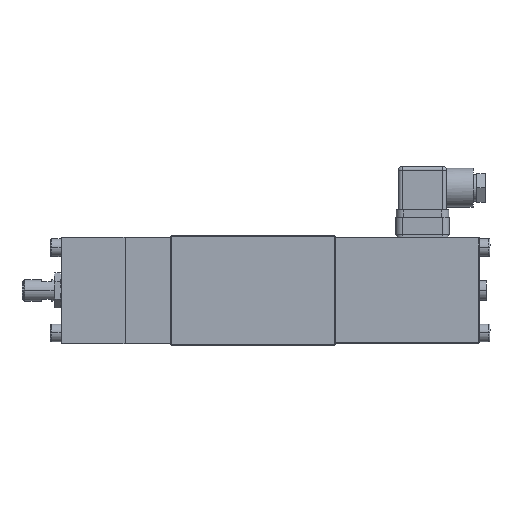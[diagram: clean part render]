
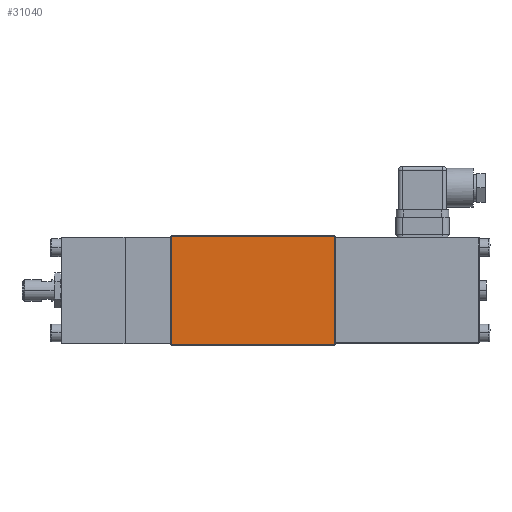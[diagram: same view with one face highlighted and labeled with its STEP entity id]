
A CAD part, top view. The second image highlights one B-rep face of the part: STEP entity #31040.
In plain terms, the highlighted planar face has unit normal (0, 0, 1).
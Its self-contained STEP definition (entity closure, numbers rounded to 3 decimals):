
#246 = PLANE ( 'NONE',  #33076 ) ;
#2569 = CARTESIAN_POINT ( 'NONE',  ( 92.5, -31., 31. ) ) ;
#2650 = EDGE_CURVE ( 'NONE', #14507, #12598, #25081, .T. ) ;
#2985 = VERTEX_POINT ( 'NONE', #25043 ) ;
#5133 = VECTOR ( 'NONE', #36692, 1000. ) ;
#5242 = CARTESIAN_POINT ( 'NONE',  ( 0.5, -31., 31. ) ) ;
#8399 = DIRECTION ( 'NONE',  ( 1., 0., 0. ) ) ;
#8882 = EDGE_CURVE ( 'NONE', #20867, #14507, #14378, .T. ) ;
#10046 = LINE ( 'NONE', #39367, #24751 ) ;
#11864 = ORIENTED_EDGE ( 'NONE', *, *, #15176, .T. ) ;
#12598 = VERTEX_POINT ( 'NONE', #40314 ) ;
#12725 = CARTESIAN_POINT ( 'NONE',  ( 93., -31., 31. ) ) ;
#13018 = EDGE_CURVE ( 'NONE', #2985, #20867, #10046, .T. ) ;
#14378 = LINE ( 'NONE', #2569, #5133 ) ;
#14507 = VERTEX_POINT ( 'NONE', #16736 ) ;
#15176 = EDGE_CURVE ( 'NONE', #12598, #2985, #22441, .T. ) ;
#15887 = DIRECTION ( 'NONE',  ( -1., 0., 0. ) ) ;
#16736 = CARTESIAN_POINT ( 'NONE',  ( 92.5, 30.5, 31. ) ) ;
#16779 = VECTOR ( 'NONE', #39489, 1000. ) ;
#19262 = FACE_OUTER_BOUND ( 'NONE', #33884, .T. ) ;
#20867 = VERTEX_POINT ( 'NONE', #30470 ) ;
#21874 = CARTESIAN_POINT ( 'NONE',  ( 93., 30.5, 31. ) ) ;
#22441 = LINE ( 'NONE', #5242, #37947 ) ;
#24751 = VECTOR ( 'NONE', #8399, 1000. ) ;
#25043 = CARTESIAN_POINT ( 'NONE',  ( 0.5, -30.5, 31. ) ) ;
#25081 = LINE ( 'NONE', #21874, #16779 ) ;
#27038 = DIRECTION ( 'NONE',  ( 0., -1., 0. ) ) ;
#28970 = ORIENTED_EDGE ( 'NONE', *, *, #13018, .T. ) ;
#30470 = CARTESIAN_POINT ( 'NONE',  ( 92.5, -30.5, 31. ) ) ;
#31040 = ADVANCED_FACE ( 'NONE', ( #19262 ), #246, .F. ) ;
#33076 = AXIS2_PLACEMENT_3D ( 'NONE', #12725, #34513, #15887 ) ;
#33884 = EDGE_LOOP ( 'NONE', ( #11864, #28970, #38164, #39061 ) ) ;
#34513 = DIRECTION ( 'NONE',  ( 0., 0., -1. ) ) ;
#36692 = DIRECTION ( 'NONE',  ( 0., 1., 0. ) ) ;
#37947 = VECTOR ( 'NONE', #27038, 1000. ) ;
#38164 = ORIENTED_EDGE ( 'NONE', *, *, #8882, .T. ) ;
#39061 = ORIENTED_EDGE ( 'NONE', *, *, #2650, .T. ) ;
#39367 = CARTESIAN_POINT ( 'NONE',  ( 93., -30.5, 31. ) ) ;
#39489 = DIRECTION ( 'NONE',  ( -1., 0., 0. ) ) ;
#40314 = CARTESIAN_POINT ( 'NONE',  ( 0.5, 30.5, 31. ) ) ;
